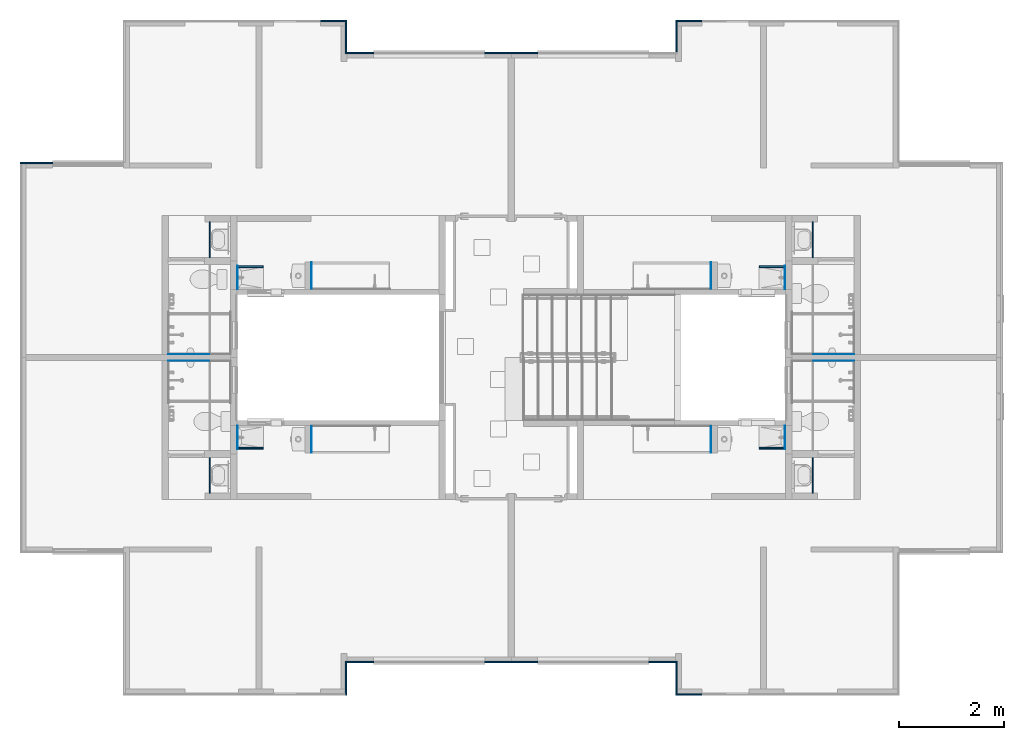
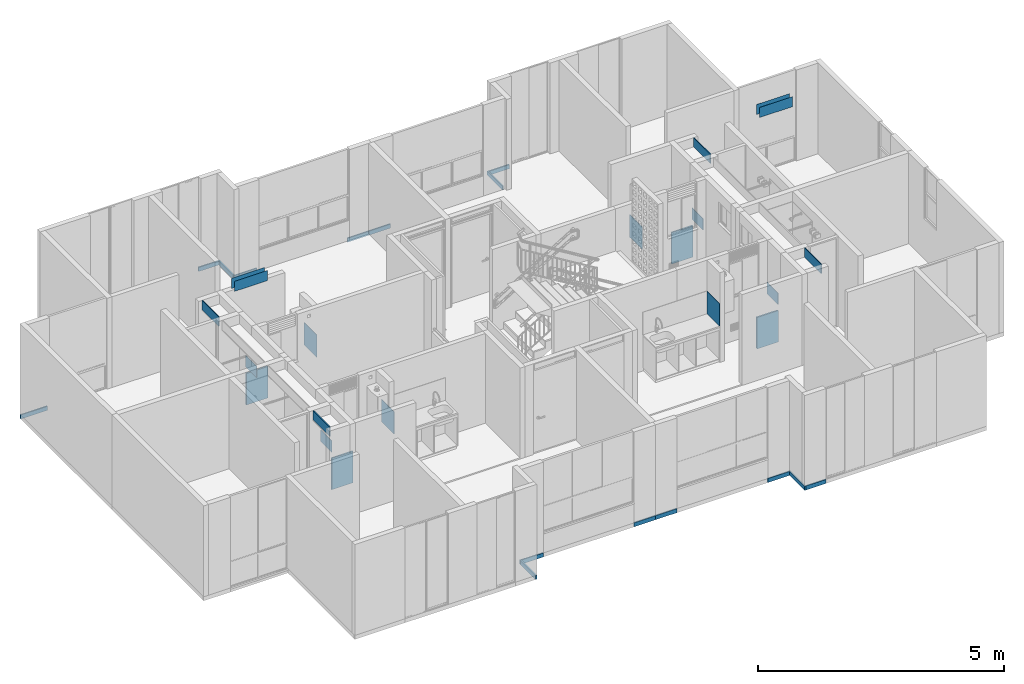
# One storey, part 27 of 48: 35 walls.
"""IFC4 building model written with IfcOpenShell, lengths in metres."""

from ifc_helpers import new_model, entity, si_unit, converted_unit, derived_unit, direction, frame, origin, place, context, subcontext, project, spatial, indexed_curve, outline, extrude, material, constituent, constituent_set, type_object, element, save


model = new_model("IFC4")

# Units and contexts
model_context = context("Model", 3, precision=1e-05, world=origin(), true_north=direction((6.123031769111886e-17, 1.0)))
body_context = subcontext(model_context, "Body", "Model", "MODEL_VIEW")
ifc_project = project(units=[si_unit("LENGTHUNIT", "METRE"), si_unit("AREAUNIT", "SQUARE_METRE"), si_unit("VOLUMEUNIT", "CUBIC_METRE"), converted_unit("PLANEANGLEUNIT", "DEGREE", entity("IfcRatioMeasure", 0.017453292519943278), si_unit("PLANEANGLEUNIT", "RADIAN"), dimensions=[0, 0, 0, 0, 0, 0, 0]), si_unit("MASSUNIT", "GRAM", prefix="KILO"), derived_unit("MASSDENSITYUNIT", [(si_unit("MASSUNIT", "GRAM", prefix="KILO"), 1), (si_unit("LENGTHUNIT", "METRE"), -3)]), derived_unit("IONCONCENTRATIONUNIT", [(si_unit("MASSUNIT", "GRAM", prefix="KILO"), 1), (si_unit("LENGTHUNIT", "METRE"), -3)]), derived_unit("MOMENTOFINERTIAUNIT", [(si_unit("LENGTHUNIT", "METRE"), 4)]), si_unit("TIMEUNIT", "SECOND"), si_unit("FREQUENCYUNIT", "HERTZ"), si_unit("THERMODYNAMICTEMPERATUREUNIT", "DEGREE_CELSIUS"), derived_unit("THERMALTRANSMITTANCEUNIT", [(si_unit("MASSUNIT", "GRAM", prefix="KILO"), 1), (si_unit("THERMODYNAMICTEMPERATUREUNIT", "KELVIN"), -1), (si_unit("TIMEUNIT", "SECOND"), -3)]), derived_unit("THERMALCONDUCTANCEUNIT", [(si_unit("MASSUNIT", "GRAM", prefix="KILO"), 1), (si_unit("THERMODYNAMICTEMPERATUREUNIT", "KELVIN"), -1), (si_unit("TIMEUNIT", "SECOND"), -3), (si_unit("LENGTHUNIT", "METRE"), 1)]), derived_unit("VOLUMETRICFLOWRATEUNIT", [(si_unit("LENGTHUNIT", "METRE"), 3), (si_unit("TIMEUNIT", "SECOND"), -1)]), derived_unit("MASSFLOWRATEUNIT", [(si_unit("MASSUNIT", "GRAM", prefix="KILO"), 1), (si_unit("TIMEUNIT", "SECOND"), -1)]), derived_unit("ROTATIONALFREQUENCYUNIT", [(si_unit("TIMEUNIT", "SECOND"), -1)]), si_unit("ELECTRICCURRENTUNIT", "AMPERE"), si_unit("ELECTRICVOLTAGEUNIT", "VOLT"), si_unit("POWERUNIT", "WATT"), si_unit("FORCEUNIT", "NEWTON", prefix="KILO"), si_unit("ILLUMINANCEUNIT", "LUX"), si_unit("LUMINOUSFLUXUNIT", "LUMEN"), si_unit("LUMINOUSINTENSITYUNIT", "CANDELA"), derived_unit("USERDEFINED", [(si_unit("MASSUNIT", "GRAM", prefix="KILO"), -1), (si_unit("LENGTHUNIT", "METRE"), -2), (si_unit("TIMEUNIT", "SECOND"), 3), (si_unit("LUMINOUSFLUXUNIT", "LUMEN"), 1)]), derived_unit("USERDEFINED", [(si_unit("MASSUNIT", "GRAM", prefix="KILO"), 1), (si_unit("TIMEUNIT", "SECOND"), -3), (si_unit("LENGTHUNIT", "METRE"), 3), (si_unit("ELECTRICCURRENTUNIT", "AMPERE"), -2)]), derived_unit("SOUNDPOWERUNIT", [(si_unit("MASSUNIT", "GRAM", prefix="KILO"), 1), (si_unit("TIMEUNIT", "SECOND"), -3), (si_unit("LENGTHUNIT", "METRE"), 2)]), derived_unit("SOUNDPRESSUREUNIT", [(si_unit("MASSUNIT", "GRAM", prefix="KILO"), 1), (si_unit("LENGTHUNIT", "METRE"), -1), (si_unit("TIMEUNIT", "SECOND"), -2)]), derived_unit("LINEARVELOCITYUNIT", [(si_unit("LENGTHUNIT", "METRE"), 1), (si_unit("TIMEUNIT", "SECOND"), -1)]), si_unit("PRESSUREUNIT", "PASCAL"), derived_unit("USERDEFINED", [(si_unit("MASSUNIT", "GRAM", prefix="KILO"), 1), (si_unit("LENGTHUNIT", "METRE"), -2), (si_unit("TIMEUNIT", "SECOND"), -2)]), derived_unit("LINEARFORCEUNIT", [(si_unit("MASSUNIT", "GRAM", prefix="KILO"), 1), (si_unit("TIMEUNIT", "SECOND"), -2)]), derived_unit("PLANARFORCEUNIT", [(si_unit("MASSUNIT", "GRAM", prefix="KILO"), 1), (si_unit("LENGTHUNIT", "METRE"), -1), (si_unit("TIMEUNIT", "SECOND"), -2)]), derived_unit("SPECIFICHEATCAPACITYUNIT", [(si_unit("THERMODYNAMICTEMPERATUREUNIT", "KELVIN"), -1), (si_unit("LENGTHUNIT", "METRE"), 2), (si_unit("TIMEUNIT", "SECOND"), -2)]), derived_unit("HEATINGVALUEUNIT", [(si_unit("LENGTHUNIT", "METRE"), 2), (si_unit("TIMEUNIT", "SECOND"), -2)]), derived_unit("VAPORPERMEABILITYUNIT", [(si_unit("LENGTHUNIT", "METRE"), -1), (si_unit("TIMEUNIT", "SECOND"), 1)]), derived_unit("DYNAMICVISCOSITYUNIT", [(si_unit("MASSUNIT", "GRAM", prefix="KILO"), 1), (si_unit("TIMEUNIT", "SECOND"), -1), (si_unit("LENGTHUNIT", "METRE"), -1)]), derived_unit("THERMALEXPANSIONCOEFFICIENTUNIT", [(si_unit("THERMODYNAMICTEMPERATUREUNIT", "KELVIN"), -1)]), derived_unit("MODULUSOFELASTICITYUNIT", [(si_unit("MASSUNIT", "GRAM", prefix="KILO"), 1), (si_unit("LENGTHUNIT", "METRE"), -1), (si_unit("TIMEUNIT", "SECOND"), -2)]), derived_unit("ISOTHERMALMOISTURECAPACITYUNIT", [(si_unit("LENGTHUNIT", "METRE"), 3), (si_unit("MASSUNIT", "GRAM", prefix="KILO"), -1)]), derived_unit("MOISTUREDIFFUSIVITYUNIT", [(si_unit("TIMEUNIT", "SECOND"), -1), (si_unit("LENGTHUNIT", "METRE"), 2)])], contexts=[model_context])

# Site, building, storey
site_placement = place(None, origin())
site = spatial("IfcSite", under=ifc_project, at=site_placement, Name="Default", CompositionType="ELEMENT")
building_placement = place(site_placement, origin())
building = spatial("IfcBuilding", under=site, at=building_placement, CompositionType="ELEMENT")
storey_placement = place(building_placement, frame((0.0, 0.0, 4.700000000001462)))
storey = spatial("IfcBuildingStorey", under=building, at=storey_placement, Name="Nivel 3", CompositionType="ELEMENT", Elevation=4.700000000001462)

# Walls
ifc_material_1 = material(Name="Plasterboard", Category="Materials")
wall_type_1 = type_object("IfcWallType", Name="Basic Wall:C1070 - 0.02m - Plafón - Drywall", PredefinedType="STANDARD")
wall_1_placement = place(storey_placement, frame((3.5624999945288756, -4.515000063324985, 2.019999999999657), z_axis=(0.0, 0.0, 1.0), x_axis=(0.0, 1.0, 0.0)))
element("IfcWall", 1, at=wall_1_placement, inside=storey, type_object=wall_type_1, material=ifc_material_1, Name="Basic Wall:C1070 - 0.02m - Plafón - Drywall", ObjectType="Basic Wall:C1070 - 0.02m - Plafón - Drywall", PredefinedType="NOTDEFINED", context=body_context, shape_type="SweptSolid", body=[
    extrude(outline(indexed_curve([(0.6800000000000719, 0.009999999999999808), (8.086221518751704e-17, 0.009999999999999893), (-8.086221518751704e-17, -0.009999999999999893), (0.6800000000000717, -0.009999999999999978), (0.6800000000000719, 0.009999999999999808)], self_intersect=False)), origin(), (0.0, 0.0, 1.0), 0.23000000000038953),
])
wall_2_placement = place(storey_placement, frame((3.5624999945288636, -8.334999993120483, 2.019999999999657), z_axis=(0.0, 0.0, 1.0), x_axis=(0.0, -1.0, 0.0)))
element("IfcWall", 2, at=wall_2_placement, inside=storey, type_object=wall_type_1, material=ifc_material_1, Name="Basic Wall:C1070 - 0.02m - Plafón - Drywall", ObjectType="Basic Wall:C1070 - 0.02m - Plafón - Drywall", PredefinedType="NOTDEFINED", context=body_context, shape_type="SweptSolid", body=[
    extrude(outline(indexed_curve([(0.6800000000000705, 0.009999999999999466), (-1.4500026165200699e-16, 0.009999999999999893), (1.4500026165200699e-16, -0.009999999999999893), (0.6800000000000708, -0.01000000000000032), (0.6800000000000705, 0.009999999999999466)], self_intersect=False)), origin(), (0.0, 0.0, 1.0), 0.23000000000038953),
])
wall_3_placement = place(storey_placement, frame((15.082500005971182, -4.515000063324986, 2.019999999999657), z_axis=(0.0, 0.0, 1.0), x_axis=(0.0, 1.0, 0.0)))
element("IfcWall", 3, at=wall_3_placement, inside=storey, type_object=wall_type_1, material=ifc_material_1, Name="Basic Wall:C1070 - 0.02m - Plafón - Drywall", ObjectType="Basic Wall:C1070 - 0.02m - Plafón - Drywall", PredefinedType="NOTDEFINED", context=body_context, shape_type="SweptSolid", body=[
    extrude(outline(indexed_curve([(0.6800000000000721, 0.01000000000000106), (-8.086221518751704e-17, 0.009999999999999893), (8.086221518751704e-17, -0.009999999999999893), (0.6800000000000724, -0.009999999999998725), (0.6800000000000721, 0.01000000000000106)], self_intersect=False)), origin(), (0.0, 0.0, 1.0), 0.23000000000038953),
])
wall_4_placement = place(storey_placement, frame((15.082500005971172, -8.334999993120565, 2.019999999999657), z_axis=(0.0, 0.0, 1.0), x_axis=(0.0, -1.0, 0.0)))
element("IfcWall", 4, at=wall_4_placement, inside=storey, type_object=wall_type_1, material=ifc_material_1, Name="Basic Wall:C1070 - 0.02m - Plafón - Drywall", ObjectType="Basic Wall:C1070 - 0.02m - Plafón - Drywall", PredefinedType="NOTDEFINED", context=body_context, shape_type="SweptSolid", body=[
    extrude(outline(indexed_curve([(0.6800000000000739, 0.009999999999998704), (1.74650790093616e-17, 0.009999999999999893), (-1.74650790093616e-17, -0.009999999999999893), (0.6800000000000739, -0.010000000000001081), (0.6800000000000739, 0.009999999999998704)], self_intersect=False)), origin(), (0.0, 0.0, 1.0), 0.23000000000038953),
])
ifc_material_2 = material(Name="Ceramica Salpicadero 0.28m x 0.45m", Category="Materials")
wall_type_2 = type_object("IfcWallType", Name="Basic Wall:C2010 - 0.28 x 0.45 - Salpicadero - Cerámica", PredefinedType="STANDARD")
wall_5_placement = place(storey_placement, frame((4.092499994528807, -4.67500002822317, 0.9299999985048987), z_axis=(0.0, 0.0, 1.0), x_axis=(0.0, -1.0, 0.0)))
element("IfcWall", 5, at=wall_5_placement, inside=storey, type_object=wall_type_2, material=ifc_material_2, Name="Basic Wall:C2010 - 0.28 x 0.45 - Salpicadero - Cerámica", ObjectType="Basic Wall:C2010 - 0.28 x 0.45 - Salpicadero - Cerámica", PredefinedType="NOTDEFINED", context=body_context, shape_type="SweptSolid", body=[
    extrude(outline(indexed_curve([(0.44949999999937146, 0.004999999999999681), (-8.738326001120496e-17, 0.004999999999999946), (8.738326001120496e-17, -0.004999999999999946), (0.4494999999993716, -0.005000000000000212), (0.44949999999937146, 0.004999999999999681)], self_intersect=False)), origin(), (0.0, 0.0, 1.0), 0.28000000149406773),
])
wall_6_placement = place(storey_placement, frame((4.092499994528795, -8.175000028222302, 0.9299999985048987), z_axis=(0.0, 0.0, 1.0), x_axis=(0.0, 1.0, 0.0)))
element("IfcWall", 6, at=wall_6_placement, inside=storey, type_object=wall_type_2, material=ifc_material_2, Name="Basic Wall:C2010 - 0.28 x 0.45 - Salpicadero - Cerámica", ObjectType="Basic Wall:C2010 - 0.28 x 0.45 - Salpicadero - Cerámica", PredefinedType="NOTDEFINED", context=body_context, shape_type="SweptSolid", body=[
    extrude(outline(indexed_curve([(0.4494999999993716, 0.004999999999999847), (5.531423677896e-17, 0.004999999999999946), (-5.531423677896e-17, -0.004999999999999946), (0.44949999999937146, -0.005000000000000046), (0.4494999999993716, 0.004999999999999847)], self_intersect=False)), origin(), (0.0, 0.0, 1.0), 0.28000000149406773),
])
wall_7_placement = place(storey_placement, frame((14.55250000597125, -4.67500002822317, 0.9299999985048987), z_axis=(0.0, 0.0, 1.0), x_axis=(0.0, -1.0, 0.0)))
element("IfcWall", 7, at=wall_7_placement, inside=storey, type_object=wall_type_2, material=ifc_material_2, Name="Basic Wall:C2010 - 0.28 x 0.45 - Salpicadero - Cerámica", ObjectType="Basic Wall:C2010 - 0.28 x 0.45 - Salpicadero - Cerámica", PredefinedType="NOTDEFINED", context=body_context, shape_type="SweptSolid", body=[
    extrude(outline(indexed_curve([(0.4494999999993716, 0.005000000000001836), (8.738326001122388e-17, 0.005000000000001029), (-8.738326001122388e-17, -0.005000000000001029), (0.44949999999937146, -0.005000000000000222), (0.4494999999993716, 0.005000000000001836)], self_intersect=False)), origin(), (0.0, 0.0, 1.0), 0.28000000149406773),
])
wall_8_placement = place(storey_placement, frame((14.55250000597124, -8.175000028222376, 0.9299999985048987), z_axis=(0.0, 0.0, 1.0), x_axis=(0.0, 1.0, 0.0)))
element("IfcWall", 8, at=wall_8_placement, inside=storey, type_object=wall_type_2, material=ifc_material_2, Name="Basic Wall:C2010 - 0.28 x 0.45 - Salpicadero - Cerámica", ObjectType="Basic Wall:C2010 - 0.28 x 0.45 - Salpicadero - Cerámica", PredefinedType="NOTDEFINED", context=body_context, shape_type="SweptSolid", body=[
    extrude(outline(indexed_curve([(0.4494999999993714, 0.005000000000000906), (-1.1908182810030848e-16, 0.005000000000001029), (1.1908182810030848e-16, -0.005000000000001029), (0.4494999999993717, -0.005000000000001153), (0.4494999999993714, 0.005000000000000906)], self_intersect=False)), origin(), (0.0, 0.0, 1.0), 0.28000000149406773),
])
wall_9_placement = place(storey_placement, frame((5.507499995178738, -4.605000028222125, 0.9299999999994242), z_axis=(0.0, 0.0, 1.0), x_axis=(0.0, -1.0, 0.0)))
element("IfcWall", 9, at=wall_9_placement, inside=storey, type_object=wall_type_2, material=ifc_material_2, Name="Basic Wall:C2010 - 0.28 x 0.45 - Salpicadero - Cerámica", ObjectType="Basic Wall:C2010 - 0.28 x 0.45 - Salpicadero - Cerámica", PredefinedType="NOTDEFINED", context=body_context, shape_type="SweptSolid", body=[
    extrude(outline(indexed_curve([(0.5100000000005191, 0.005000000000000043), (-2.217940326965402e-17, 0.004999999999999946), (2.217940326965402e-17, -0.004999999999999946), (0.5100000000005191, -0.00499999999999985), (0.5100000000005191, 0.005000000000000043)], self_intersect=False)), origin(), (0.0, 0.0, 1.0), 0.5599999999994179),
])
wall_10_placement = place(storey_placement, frame((5.507499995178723, -8.245000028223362, 0.9299999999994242), z_axis=(0.0, 0.0, 1.0), x_axis=(0.0, 1.0, 0.0)))
element("IfcWall", 10, at=wall_10_placement, inside=storey, type_object=wall_type_2, material=ifc_material_2, Name="Basic Wall:C2010 - 0.28 x 0.45 - Salpicadero - Cerámica", ObjectType="Basic Wall:C2010 - 0.28 x 0.45 - Salpicadero - Cerámica", PredefinedType="NOTDEFINED", context=body_context, shape_type="SweptSolid", body=[
    extrude(outline(indexed_curve([(0.5100000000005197, 0.0049999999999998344), (-9.519164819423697e-18, 0.004999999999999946), (9.519164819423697e-18, -0.004999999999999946), (0.5100000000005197, -0.005000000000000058), (0.5100000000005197, 0.0049999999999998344)], self_intersect=False)), origin(), (0.0, 0.0, 1.0), 0.5599999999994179),
])
wall_11_placement = place(storey_placement, frame((13.13750000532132, -4.605000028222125, 0.9299999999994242), z_axis=(0.0, 0.0, 1.0), x_axis=(0.0, -1.0, 0.0)))
element("IfcWall", 11, at=wall_11_placement, inside=storey, type_object=wall_type_2, material=ifc_material_2, Name="Basic Wall:C2010 - 0.28 x 0.45 - Salpicadero - Cerámica", ObjectType="Basic Wall:C2010 - 0.28 x 0.45 - Salpicadero - Cerámica", PredefinedType="NOTDEFINED", context=body_context, shape_type="SweptSolid", body=[
    extrude(outline(indexed_curve([(0.5100000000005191, 0.0050000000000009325), (2.2179403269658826e-17, 0.005000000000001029), (-2.2179403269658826e-17, -0.005000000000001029), (0.5100000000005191, -0.005000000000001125), (0.5100000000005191, 0.0050000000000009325)], self_intersect=False)), origin(), (0.0, 0.0, 1.0), 0.5599999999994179),
])
wall_12_placement = place(storey_placement, frame((13.137500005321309, -8.245000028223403, 0.9299999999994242), z_axis=(0.0, 0.0, 1.0), x_axis=(0.0, 1.0, 0.0)))
element("IfcWall", 12, at=wall_12_placement, inside=storey, type_object=wall_type_2, material=ifc_material_2, Name="Basic Wall:C2010 - 0.28 x 0.45 - Salpicadero - Cerámica", ObjectType="Basic Wall:C2010 - 0.28 x 0.45 - Salpicadero - Cerámica", PredefinedType="NOTDEFINED", context=body_context, shape_type="SweptSolid", body=[
    extrude(outline(indexed_curve([(0.5100000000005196, 0.00499999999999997), (-5.3311001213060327e-17, 0.005000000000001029), (5.3311001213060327e-17, -0.005000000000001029), (0.5100000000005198, -0.005000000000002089), (0.5100000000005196, 0.00499999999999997)], self_intersect=False)), origin(), (0.0, 0.0, 1.0), 0.5599999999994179),
])
ifc_material_3 = material(Name="Estuco y pintura", Category="Materials")
ifc_constituent_1 = constituent(ifc_material_3, Name="Estuco y pintura", Category="Materials")
ifc_material_4 = material(Name="0 muro divisorio", Category="Materials")
ifc_constituent_2 = constituent(ifc_material_4, Name="0 muro divisorio", Category="Materials")
ifc_constituent_3 = constituent(ifc_material_3, Name="Estuco y pintura (2)", Category="Materials")
ifc_constituent_set = constituent_set(constituents=[ifc_constituent_1, ifc_constituent_2, ifc_constituent_3], Name="Basic Wall:B2010 - 0.03m - Muro interior en estuco+pintura+ concreto+ estuco+ pintura")
wall_type_3 = type_object("IfcWallType", Name="Basic Wall:B2010 - 0.03m - Muro interior en estuco+pintura+ concreto+ estuco+ pintura", PredefinedType="STANDARD", material=ifc_constituent_set)
wall_13_placement = place(storey_placement, frame((4.087499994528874, -4.6920000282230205, 0.0)))
element("IfcWall", 13, at=wall_13_placement, inside=storey, type_object=wall_type_3, material=ifc_constituent_set, Name="Basic Wall:B2010 - 0.03m - Muro interior en estuco+pintura+ concreto+ estuco+ pintura", ObjectType="Basic Wall:B2010 - 0.03m - Muro interior en estuco+pintura+ concreto+ estuco+ pintura", PredefinedType="NOTDEFINED", context=body_context, shape_type="SweptSolid", body=[
    extrude(outline(indexed_curve([(-0.0009999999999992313, -0.25000023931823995), (0.0010000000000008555, -0.25000023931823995), (0.0009999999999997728, 0.2500002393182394), (-0.001000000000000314, 0.2500002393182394), (-0.0009999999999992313, -0.25000023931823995)], self_intersect=False)), frame((0.25000023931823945, -0.016000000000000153, 0.0), z_axis=(0.0, 0.0, 1.0), x_axis=(0.0, 1.0, 0.0)), (0.0, 0.0, 1.0), 0.7799999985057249),
    extrude(outline(indexed_curve([(-0.0009999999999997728, -0.25000023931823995), (0.001000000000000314, -0.25000023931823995), (0.0009999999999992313, 0.2500002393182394), (-0.0010000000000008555, 0.2500002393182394), (-0.0009999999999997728, -0.25000023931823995)], self_intersect=False)), frame((0.25000023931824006, 0.015999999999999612, 0.0), z_axis=(0.0, 0.0, 1.0), x_axis=(0.0, -1.0, 0.0)), (0.0, 0.0, 1.0), 0.7799999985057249),
    extrude(outline(indexed_curve([(-0.25000023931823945, -0.01500000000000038), (0.2500002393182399, -0.01500000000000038), (0.25000023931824, 0.014999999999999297), (-0.2500002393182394, 0.014999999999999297), (-0.25000023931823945, -0.01500000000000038)], self_intersect=False)), frame((0.25000023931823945, 0.0, 0.0)), (0.0, 0.0, 1.0), 0.7799999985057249),
])
wall_14_placement = place(storey_placement, frame((4.087499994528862, -8.158000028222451, 0.0)))
element("IfcWall", 14, at=wall_14_placement, inside=storey, type_object=wall_type_3, material=ifc_constituent_set, Name="Basic Wall:B2010 - 0.03m - Muro interior en estuco+pintura+ concreto+ estuco+ pintura", ObjectType="Basic Wall:B2010 - 0.03m - Muro interior en estuco+pintura+ concreto+ estuco+ pintura", PredefinedType="NOTDEFINED", context=body_context, shape_type="SweptSolid", body=[
    extrude(outline(indexed_curve([(-0.0010000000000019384, -0.25000023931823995), (0.0009999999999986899, -0.25000023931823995), (0.0010000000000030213, 0.2500002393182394), (-0.000999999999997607, 0.2500002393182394), (-0.0010000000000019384, -0.25000023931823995)], self_intersect=False)), frame((0.2500002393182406, 0.016000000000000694, 0.0), z_axis=(0.0, 0.0, 1.0), x_axis=(0.0, -1.0, 0.0)), (0.0, 0.0, 1.0), 0.7799999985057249),
    extrude(outline(indexed_curve([(-0.0010000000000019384, -0.25000023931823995), (0.000999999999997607, -0.25000023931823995), (0.0010000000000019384, 0.2500002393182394), (-0.000999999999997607, 0.2500002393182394), (-0.0010000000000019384, -0.25000023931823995)], self_intersect=False)), frame((0.25000023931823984, -0.015999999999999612, 0.0), z_axis=(0.0, 0.0, 1.0), x_axis=(0.0, 1.0, 0.0)), (0.0, 0.0, 1.0), 0.7799999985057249),
    extrude(outline(indexed_curve([(-0.25000023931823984, -0.014999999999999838), (0.25000023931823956, -0.014999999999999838), (0.25000023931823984, 0.014999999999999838), (-0.25000023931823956, 0.014999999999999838), (-0.25000023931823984, -0.014999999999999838)], self_intersect=False)), frame((0.25000023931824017, 0.0, 0.0)), (0.0, 0.0, 1.0), 0.7799999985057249),
])
wall_15_placement = place(storey_placement, frame((14.557500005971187, -4.6920000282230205, 0.0), z_axis=(0.0, 0.0, 1.0), x_axis=(-1.0, 0.0, 0.0)))
element("IfcWall", 15, at=wall_15_placement, inside=storey, type_object=wall_type_3, material=ifc_constituent_set, Name="Basic Wall:B2010 - 0.03m - Muro interior en estuco+pintura+ concreto+ estuco+ pintura", ObjectType="Basic Wall:B2010 - 0.03m - Muro interior en estuco+pintura+ concreto+ estuco+ pintura", PredefinedType="NOTDEFINED", context=body_context, shape_type="SweptSolid", body=[
    extrude(outline(indexed_curve([(-0.0010000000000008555, -0.25000023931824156), (0.0009999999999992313, -0.25000023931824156), (0.001000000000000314, 0.2500002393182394), (-0.0009999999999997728, 0.2500002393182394), (-0.0010000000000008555, -0.25000023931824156)], self_intersect=False)), frame((0.25000023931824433, 0.015999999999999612, 0.0), z_axis=(0.0, 0.0, 1.0), x_axis=(0.0, -1.0, 0.0)), (0.0, 0.0, 1.0), 0.7799999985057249),
    extrude(outline(indexed_curve([(-0.001000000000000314, -0.25000023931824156), (0.0009999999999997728, -0.25000023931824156), (0.0010000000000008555, 0.25000023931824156), (-0.0009999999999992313, 0.25000023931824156), (-0.001000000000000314, -0.25000023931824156)], self_intersect=False)), frame((0.2500002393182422, -0.016000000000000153, 0.0), z_axis=(0.0, 0.0, 1.0), x_axis=(0.0, 1.0, 0.0)), (0.0, 0.0, 1.0), 0.7799999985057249),
    extrude(outline(indexed_curve([(-0.25000023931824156, -0.01500000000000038), (0.2500002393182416, -0.01500000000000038), (0.25000023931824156, 0.014999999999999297), (-0.25000023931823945, 0.014999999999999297), (-0.25000023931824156, -0.01500000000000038)], self_intersect=False)), frame((0.25000023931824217, 0.0, 0.0)), (0.0, 0.0, 1.0), 0.7799999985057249),
])
wall_16_placement = place(storey_placement, frame((14.557500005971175, -8.158000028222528, 0.0), z_axis=(0.0, 0.0, 1.0), x_axis=(-1.0, 0.0, 0.0)))
element("IfcWall", 16, at=wall_16_placement, inside=storey, type_object=wall_type_3, material=ifc_constituent_set, Name="Basic Wall:B2010 - 0.03m - Muro interior en estuco+pintura+ concreto+ estuco+ pintura", ObjectType="Basic Wall:B2010 - 0.03m - Muro interior en estuco+pintura+ concreto+ estuco+ pintura", PredefinedType="NOTDEFINED", context=body_context, shape_type="SweptSolid", body=[
    extrude(outline(indexed_curve([(-0.0010000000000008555, -0.2500002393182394), (0.0009999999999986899, -0.2500002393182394), (0.0010000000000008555, 0.2500002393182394), (-0.0009999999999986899, 0.2500002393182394), (-0.0010000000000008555, -0.2500002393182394)], self_intersect=False)), frame((0.25000023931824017, -0.015999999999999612, 0.0), z_axis=(0.0, 0.0, 1.0), x_axis=(0.0, 1.0, 0.0)), (0.0, 0.0, 1.0), 0.7799999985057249),
    extrude(outline(indexed_curve([(-0.0010000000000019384, -0.2500002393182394), (0.0009999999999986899, -0.2500002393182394), (0.0010000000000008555, 0.2500002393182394), (-0.0009999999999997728, 0.2500002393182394), (-0.0010000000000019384, -0.2500002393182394)], self_intersect=False)), frame((0.25000023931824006, 0.015999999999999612, 0.0), z_axis=(0.0, 0.0, 1.0), x_axis=(0.0, -1.0, 0.0)), (0.0, 0.0, 1.0), 0.7799999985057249),
    extrude(outline(indexed_curve([(-0.25000023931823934, -0.014999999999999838), (0.25000023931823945, -0.014999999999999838), (0.25000023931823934, 0.014999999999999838), (-0.25000023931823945, 0.014999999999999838), (-0.25000023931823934, -0.014999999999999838)], self_intersect=False)), frame((0.2500002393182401, 0.0, 0.0)), (0.0, 0.0, 1.0), 0.7799999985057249),
])
ifc_material_5 = material(Name="LADRILLO CLARO", Category="Materials")
wall_type_4 = type_object("IfcWallType", Name="Basic Wall:B2010 - 0.03m - ME enchape  no estructural - Ladrillo", PredefinedType="STANDARD")
wall_17_placement = place(storey_placement, frame((9.322500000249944, -0.6100000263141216, -0.1000000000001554), z_axis=(0.0, 0.0, 1.0), x_axis=(-1.0, 0.0, 0.0)))
element("IfcWall", 17, at=wall_17_placement, inside=storey, type_object=wall_type_4, material=ifc_material_5, Name="Basic Wall:B2010 - 0.03m - ME enchape  no estructural - Ladrillo", ObjectType="Basic Wall:B2010 - 0.03m - ME enchape  no estructural - Ladrillo", PredefinedType="NOTDEFINED", context=body_context, shape_type="SweptSolid", body=[
    extrude(outline(indexed_curve([(0.5049999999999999, 0.015000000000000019), (-5.3566291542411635e-17, 0.014999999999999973), (5.3566291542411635e-17, -0.014999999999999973), (0.505, -0.014999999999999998), (0.5049999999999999, 0.015000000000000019)], self_intersect=False)), origin(), (0.0, 0.0, 1.0), 0.1),
])
wall_18_placement = place(storey_placement, frame((6.167499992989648, -0.5950000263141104, -0.1000000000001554), z_axis=(0.0, 0.0, 1.0), x_axis=(0.0, 1.0, 0.0)))
element("IfcWall", 18, at=wall_18_placement, inside=storey, type_object=wall_type_4, material=ifc_material_5, Name="Basic Wall:B2010 - 0.03m - ME enchape  no estructural - Ladrillo", ObjectType="Basic Wall:B2010 - 0.03m - ME enchape  no estructural - Ladrillo", PredefinedType="NOTDEFINED", context=body_context, shape_type="SweptSolid", body=[
    extrude(outline(indexed_curve([(0.6150000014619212, 0.014999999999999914), (-1.83697019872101e-18, 0.014999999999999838), (1.83697019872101e-18, -0.014999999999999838), (0.6150000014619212, -0.014999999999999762), (0.6150000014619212, 0.014999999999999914)], self_intersect=False)), origin(), (0.0, 0.0, 1.0), 0.1),
])
wall_19_placement = place(storey_placement, frame((6.1524999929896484, 0.004999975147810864, -0.1000000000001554), z_axis=(0.0, 0.0, 1.0), x_axis=(-1.0, 0.0, 0.0)))
element("IfcWall", 19, at=wall_19_placement, inside=storey, type_object=wall_type_4, material=ifc_material_5, Name="Basic Wall:B2010 - 0.03m - ME enchape  no estructural - Ladrillo", ObjectType="Basic Wall:B2010 - 0.03m - ME enchape  no estructural - Ladrillo", PredefinedType="NOTDEFINED", context=body_context, shape_type="SweptSolid", body=[
    extrude(outline(indexed_curve([(0.46999999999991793, 0.015), (-1.4243869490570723e-16, 0.015), (1.4243869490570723e-16, -0.015), (0.4699999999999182, -0.015), (0.46999999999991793, 0.015)], self_intersect=False)), origin(), (0.0, 0.0, 1.0), 0.1),
])
wall_20_placement = place(storey_placement, frame((-0.05749999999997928, -2.710000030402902, -0.1000000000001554)))
element("IfcWall", 20, at=wall_20_placement, inside=storey, type_object=wall_type_4, material=ifc_material_5, Name="Basic Wall:B2010 - 0.03m - ME enchape  no estructural - Ladrillo", ObjectType="Basic Wall:B2010 - 0.03m - ME enchape  no estructural - Ladrillo", PredefinedType="NOTDEFINED", context=body_context, shape_type="SweptSolid", body=[
    extrude(outline(indexed_curve([(0.6249999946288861, 0.014999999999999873), (2.443197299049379e-18, 0.014999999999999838), (-2.443197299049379e-18, -0.014999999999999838), (0.6249999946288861, -0.014999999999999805), (0.6249999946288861, 0.014999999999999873)], self_intersect=False)), origin(), (0.0, 0.0, 1.0), 0.1),
])
wall_21_placement = place(storey_placement, frame((9.322500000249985, -12.240000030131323, -0.1000000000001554), z_axis=(0.0, 0.0, 1.0), x_axis=(-1.0, 0.0, 0.0)))
element("IfcWall", 21, at=wall_21_placement, inside=storey, type_object=wall_type_4, material=ifc_material_5, Name="Basic Wall:B2010 - 0.03m - ME enchape  no estructural - Ladrillo", ObjectType="Basic Wall:B2010 - 0.03m - ME enchape  no estructural - Ladrillo", PredefinedType="NOTDEFINED", context=body_context, shape_type="SweptSolid", body=[
    extrude(outline(indexed_curve([(0.505, 0.015000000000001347), (5.1729321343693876e-17, 0.015000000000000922), (-5.1729321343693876e-17, -0.015000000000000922), (0.5049999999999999, -0.015000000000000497), (0.505, 0.015000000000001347)], self_intersect=False)), origin(), (0.0, 0.0, 1.0), 0.1),
])
wall_22_placement = place(storey_placement, frame((6.167499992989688, -12.255000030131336, -0.1000000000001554), z_axis=(0.0, 0.0, 1.0), x_axis=(0.0, -1.0, 0.0)))
element("IfcWall", 22, at=wall_22_placement, inside=storey, type_object=wall_type_4, material=ifc_material_5, Name="Basic Wall:B2010 - 0.03m - ME enchape  no estructural - Ladrillo", ObjectType="Basic Wall:B2010 - 0.03m - ME enchape  no estructural - Ladrillo", PredefinedType="NOTDEFINED", context=body_context, shape_type="SweptSolid", body=[
    extrude(outline(indexed_curve([(0.6150000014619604, 0.014999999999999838), (0.0, 0.014999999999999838), (0.0, -0.014999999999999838), (0.6150000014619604, -0.014999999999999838), (0.6150000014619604, 0.014999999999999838)], self_intersect=False)), origin(), (0.0, 0.0, 1.0), 0.1),
])
wall_23_placement = place(storey_placement, frame((9.322500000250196, -0.6100000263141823, -0.1000000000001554)))
element("IfcWall", 23, at=wall_23_placement, inside=storey, type_object=wall_type_4, material=ifc_material_5, Name="Basic Wall:B2010 - 0.03m - ME enchape  no estructural - Ladrillo", ObjectType="Basic Wall:B2010 - 0.03m - ME enchape  no estructural - Ladrillo", PredefinedType="NOTDEFINED", context=body_context, shape_type="SweptSolid", body=[
    extrude(outline(indexed_curve([(0.5049999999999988, 0.014999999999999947), (-4.7460613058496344e-17, 0.014999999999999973), (4.7460613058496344e-17, -0.014999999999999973), (0.504999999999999, -0.015000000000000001), (0.5049999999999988, 0.014999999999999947)], self_intersect=False)), origin(), (0.0, 0.0, 1.0), 0.1),
])
wall_24_placement = place(storey_placement, frame((12.47750000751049, -0.5950000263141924, -0.1000000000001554), z_axis=(0.0, 0.0, 1.0), x_axis=(0.0, 1.0, 0.0)))
element("IfcWall", 24, at=wall_24_placement, inside=storey, type_object=wall_type_4, material=ifc_material_5, Name="Basic Wall:B2010 - 0.03m - ME enchape  no estructural - Ladrillo", ObjectType="Basic Wall:B2010 - 0.03m - ME enchape  no estructural - Ladrillo", PredefinedType="NOTDEFINED", context=body_context, shape_type="SweptSolid", body=[
    extrude(outline(indexed_curve([(0.6150000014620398, 0.015000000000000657), (-3.151073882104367e-17, 0.015000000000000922), (3.151073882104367e-17, -0.015000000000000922), (0.6150000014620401, -0.015000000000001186), (0.6150000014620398, 0.015000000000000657)], self_intersect=False)), origin(), (0.0, 0.0, 1.0), 0.1),
])
wall_25_placement = place(storey_placement, frame((12.492500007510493, 0.0049999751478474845, -0.1000000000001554)))
element("IfcWall", 25, at=wall_25_placement, inside=storey, type_object=wall_type_4, material=ifc_material_5, Name="Basic Wall:B2010 - 0.03m - ME enchape  no estructural - Ladrillo", ObjectType="Basic Wall:B2010 - 0.03m - ME enchape  no estructural - Ladrillo", PredefinedType="NOTDEFINED", context=body_context, shape_type="SweptSolid", body=[
    extrude(outline(indexed_curve([(0.4699999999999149, 0.015), (4.3864338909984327e-17, 0.015), (-4.3864338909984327e-17, -0.015), (0.46999999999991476, -0.015), (0.4699999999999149, 0.015)], self_intersect=False)), origin(), (0.0, 0.0, 1.0), 0.1),
])
wall_26_placement = place(storey_placement, frame((9.322500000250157, -12.240000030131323, -0.1000000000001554)))
element("IfcWall", 26, at=wall_26_placement, inside=storey, type_object=wall_type_4, material=ifc_material_5, Name="Basic Wall:B2010 - 0.03m - ME enchape  no estructural - Ladrillo", ObjectType="Basic Wall:B2010 - 0.03m - ME enchape  no estructural - Ladrillo", PredefinedType="NOTDEFINED", context=body_context, shape_type="SweptSolid", body=[
    extrude(outline(indexed_curve([(0.5049999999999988, 0.015000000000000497), (-5.1729321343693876e-17, 0.015000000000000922), (5.1729321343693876e-17, -0.015000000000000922), (0.504999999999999, -0.015000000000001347), (0.5049999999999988, 0.015000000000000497)], self_intersect=False)), origin(), (0.0, 0.0, 1.0), 0.1),
])
wall_27_placement = place(storey_placement, frame((12.477500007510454, -12.255000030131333, -0.1000000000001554), z_axis=(0.0, 0.0, 1.0), x_axis=(0.0, -1.0, 0.0)))
element("IfcWall", 27, at=wall_27_placement, inside=storey, type_object=wall_type_4, material=ifc_material_5, Name="Basic Wall:B2010 - 0.03m - ME enchape  no estructural - Ladrillo", ObjectType="Basic Wall:B2010 - 0.03m - ME enchape  no estructural - Ladrillo", PredefinedType="NOTDEFINED", context=body_context, shape_type="SweptSolid", body=[
    extrude(outline(indexed_curve([(0.6150000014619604, 0.015000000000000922), (0.0, 0.015000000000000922), (0.0, -0.015000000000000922), (0.6150000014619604, -0.015000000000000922), (0.6150000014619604, 0.015000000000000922)], self_intersect=False)), origin(), (0.0, 0.0, 1.0), 0.1),
])
wall_28_placement = place(storey_placement, frame((12.492500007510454, -12.855000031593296, -0.1000000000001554)))
element("IfcWall", 28, at=wall_28_placement, inside=storey, type_object=wall_type_4, material=ifc_material_5, Name="Basic Wall:B2010 - 0.03m - ME enchape  no estructural - Ladrillo", ObjectType="Basic Wall:B2010 - 0.03m - ME enchape  no estructural - Ladrillo", PredefinedType="NOTDEFINED", context=body_context, shape_type="SweptSolid", body=[
    extrude(outline(indexed_curve([(0.4699999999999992, 0.015000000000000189), (-4.570130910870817e-17, 0.015000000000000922), (4.570130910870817e-17, -0.015000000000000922), (0.46999999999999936, -0.015000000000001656), (0.4699999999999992, 0.015000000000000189)], self_intersect=False)), origin(), (0.0, 0.0, 1.0), 0.1),
])
wall_29_placement = place(storey_placement, frame((6.6924999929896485, -0.6100000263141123, -0.1000000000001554), z_axis=(0.0, 0.0, 1.0), x_axis=(-1.0, 0.0, 0.0)))
element("IfcWall", 29, at=wall_29_placement, inside=storey, type_object=wall_type_4, material=ifc_material_5, Name="Basic Wall:B2010 - 0.03m - ME enchape  no estructural - Ladrillo", ObjectType="Basic Wall:B2010 - 0.03m - ME enchape  no estructural - Ladrillo", PredefinedType="NOTDEFINED", context=body_context, shape_type="SweptSolid", body=[
    extrude(outline(indexed_curve([(0.5399999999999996, 0.014999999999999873), (-5.3566291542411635e-17, 0.014999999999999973), (5.356629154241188e-17, -0.015000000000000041), (0.5399999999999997, -0.015000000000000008), (0.5399999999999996, 0.014999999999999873)], self_intersect=False)), origin(), (0.0, 0.0, 1.0), 0.1),
])
wall_30_placement = place(storey_placement, frame((6.6924999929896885, -12.240000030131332, -0.1000000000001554), z_axis=(0.0, 0.0, 1.0), x_axis=(-1.0, 0.0, 0.0)))
element("IfcWall", 30, at=wall_30_placement, inside=storey, type_object=wall_type_4, material=ifc_material_5, Name="Basic Wall:B2010 - 0.03m - ME enchape  no estructural - Ladrillo", ObjectType="Basic Wall:B2010 - 0.03m - ME enchape  no estructural - Ladrillo", PredefinedType="NOTDEFINED", context=body_context, shape_type="SweptSolid", body=[
    extrude(outline(indexed_curve([(0.5399999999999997, 0.015000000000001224), (5.1729321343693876e-17, 0.015000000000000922), (-5.1729321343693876e-17, -0.015000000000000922), (0.5399999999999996, -0.015000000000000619), (0.5399999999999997, 0.015000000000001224)], self_intersect=False)), origin(), (0.0, 0.0, 1.0), 0.1),
])
wall_31_placement = place(storey_placement, frame((11.952500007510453, -12.240000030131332, -0.1000000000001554)))
element("IfcWall", 31, at=wall_31_placement, inside=storey, type_object=wall_type_4, material=ifc_material_5, Name="Basic Wall:B2010 - 0.03m - ME enchape  no estructural - Ladrillo", ObjectType="Basic Wall:B2010 - 0.03m - ME enchape  no estructural - Ladrillo", PredefinedType="NOTDEFINED", context=body_context, shape_type="SweptSolid", body=[
    extrude(outline(indexed_curve([(0.5400000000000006, 0.015000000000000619), (-5.1729321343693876e-17, 0.015000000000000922), (5.1729321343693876e-17, -0.015000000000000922), (0.5400000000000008, -0.015000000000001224), (0.5400000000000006, 0.015000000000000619)], self_intersect=False)), origin(), (0.0, 0.0, 1.0), 0.1),
])
ifc_material_6 = material(Name="Repello y pintura", Category="Materials")
wall_type_5 = type_object("IfcWallType", Name="Basic Wall:C2010 - 0.002m - MI acabado de muro- Estuco+ pintura", PredefinedType="STANDARD")
wall_32_placement = place(storey_placement, frame((2.7775010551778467, -6.364000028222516, 4.349999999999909)))
element("IfcWall", 32, at=wall_32_placement, inside=storey, type_object=wall_type_5, material=ifc_material_6, Name="Basic Wall:C2010 - 0.002m - MI acabado de muro- Estuco+ pintura", ObjectType="Basic Wall:C2010 - 0.002m - MI acabado de muro- Estuco+ pintura", PredefinedType="NOTDEFINED", context=body_context, shape_type="SweptSolid", body=[
    extrude(outline(indexed_curve([(0.7749989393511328, 0.0009999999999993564), (-3.654659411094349e-18, 0.0009999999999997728), (3.654659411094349e-18, -0.0009999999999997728), (0.7749989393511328, -0.0010000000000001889), (0.7749989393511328, 0.0009999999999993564)], self_intersect=False)), origin(), (0.0, 0.0, 1.0), 0.2500000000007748),
])
wall_33_placement = place(storey_placement, frame((2.7775010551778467, -6.486000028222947, 4.349999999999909)))
element("IfcWall", 33, at=wall_33_placement, inside=storey, type_object=wall_type_5, material=ifc_material_6, Name="Basic Wall:C2010 - 0.002m - MI acabado de muro- Estuco+ pintura", ObjectType="Basic Wall:C2010 - 0.002m - MI acabado de muro- Estuco+ pintura", PredefinedType="NOTDEFINED", context=body_context, shape_type="SweptSolid", body=[
    extrude(outline(indexed_curve([(0.7749989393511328, 0.0009999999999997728), (-2.7944996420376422e-18, 0.0009999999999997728), (2.7944996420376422e-18, -0.0009999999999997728), (0.7749989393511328, -0.0009999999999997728), (0.7749989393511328, 0.0009999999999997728)], self_intersect=False)), origin(), (0.0, 0.0, 1.0), 0.2500000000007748),
])
wall_34_placement = place(storey_placement, frame((15.86749894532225, -6.364000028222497, 4.349999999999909), z_axis=(0.0, 0.0, 1.0), x_axis=(-1.0, 0.0, 0.0)))
element("IfcWall", 34, at=wall_34_placement, inside=storey, type_object=wall_type_5, material=ifc_material_6, Name="Basic Wall:C2010 - 0.002m - MI acabado de muro- Estuco+ pintura", ObjectType="Basic Wall:C2010 - 0.002m - MI acabado de muro- Estuco+ pintura", PredefinedType="NOTDEFINED", context=body_context, shape_type="SweptSolid", body=[
    extrude(outline(indexed_curve([(0.7749989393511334, 0.0009999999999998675), (-2.916964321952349e-18, 0.0009999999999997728), (2.916964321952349e-18, -0.0009999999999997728), (0.7749989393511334, -0.0009999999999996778), (0.7749989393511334, 0.0009999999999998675)], self_intersect=False)), origin(), (0.0, 0.0, 1.0), 0.2500000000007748),
])
wall_35_placement = place(storey_placement, frame((15.867498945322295, -6.486000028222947, 4.349999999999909), z_axis=(0.0, 0.0, 1.0), x_axis=(-1.0, 0.0, 0.0)))
element("IfcWall", 35, at=wall_35_placement, inside=storey, type_object=wall_type_5, material=ifc_material_6, Name="Basic Wall:C2010 - 0.002m - MI acabado de muro- Estuco+ pintura", ObjectType="Basic Wall:C2010 - 0.002m - MI acabado de muro- Estuco+ pintura", PredefinedType="NOTDEFINED", context=body_context, shape_type="SweptSolid", body=[
    extrude(outline(indexed_curve([(0.7749989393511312, 0.0009999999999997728), (2.7944996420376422e-18, 0.0009999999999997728), (-2.7944996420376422e-18, -0.0009999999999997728), (0.7749989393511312, -0.0009999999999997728), (0.7749989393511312, 0.0009999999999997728)], self_intersect=False)), origin(), (0.0, 0.0, 1.0), 0.2500000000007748),
])

save(model, "model.ifc")
